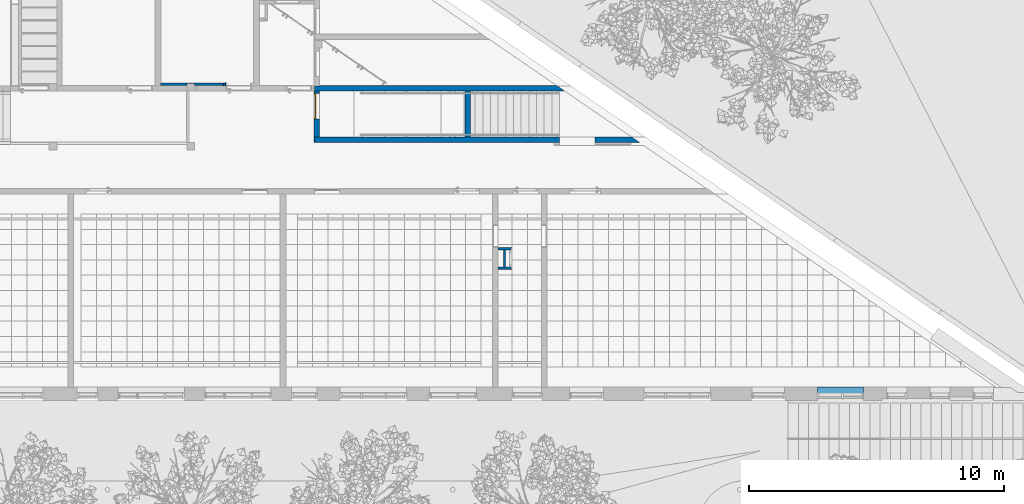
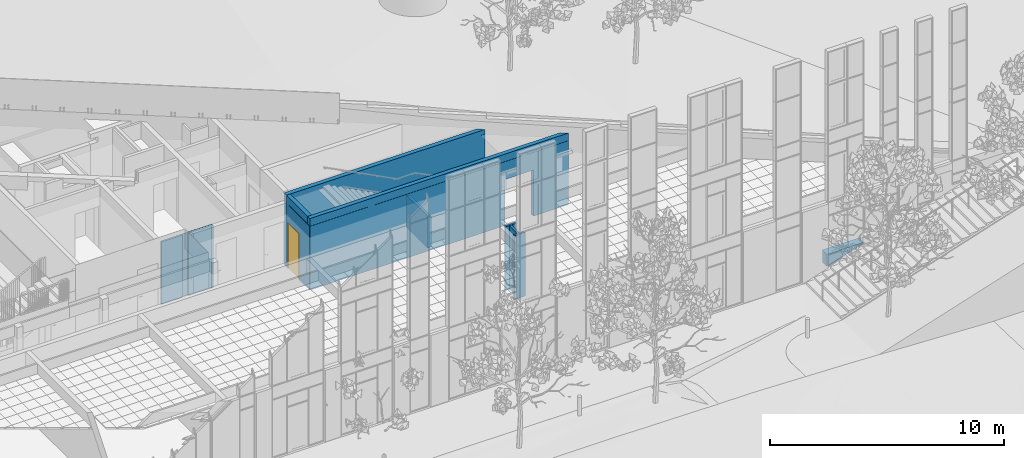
# One storey, part 133 of 246: 10 walls, 1 door, 2 openings.
"""IFC2X3 building model written with IfcOpenShell, lengths in millimetres."""

from ifc_helpers import new_model, entity, si_unit, converted_unit, derived_unit, money_unit, direction, frame, origin_with_axes, place, context, subcontext, project, spatial, faceted_brep, material, material_list, type_object, element, fill, save


model = new_model("IFC2X3")

# Units and contexts
model_context = context("Model", 3, precision=0.01, world=origin_with_axes(), true_north=direction((0.0, 1.0)))
body_context = subcontext(model_context, "Body", "Model", "MODEL_VIEW")
ifc_project = project(units=[si_unit("LENGTHUNIT", "METRE", prefix="MILLI"), si_unit("AREAUNIT", "SQUARE_METRE"), si_unit("VOLUMEUNIT", "CUBIC_METRE"), converted_unit("PLANEANGLEUNIT", "DEGREE", entity("IfcPlaneAngleMeasure", 0.0174532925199), si_unit("PLANEANGLEUNIT", "RADIAN"), dimensions=[0, 0, 0, 0, 0, 0, 0]), si_unit("SOLIDANGLEUNIT", "STERADIAN"), money_unit("EUR"), converted_unit("TIMEUNIT", "Year", entity("IfcTimeMeasure", 31556926.0), si_unit("TIMEUNIT", "SECOND"), dimensions=[0, 0, 1, 0, 0, 0, 0]), si_unit("MASSUNIT", "GRAM", prefix="KILO"), si_unit("THERMODYNAMICTEMPERATUREUNIT", "DEGREE_CELSIUS"), si_unit("LUMINOUSINTENSITYUNIT", "LUMEN"), si_unit("ENERGYUNIT", "JOULE", prefix="MEGA"), derived_unit("THERMALCONDUCTANCEUNIT", [(si_unit("POWERUNIT", "WATT"), 1), (si_unit("LENGTHUNIT", "METRE"), -1), (si_unit("THERMODYNAMICTEMPERATUREUNIT", "KELVIN"), -1)]), derived_unit("SPECIFICHEATCAPACITYUNIT", [(si_unit("ENERGYUNIT", "JOULE"), 1), (si_unit("MASSUNIT", "GRAM", prefix="KILO"), -1), (si_unit("THERMODYNAMICTEMPERATUREUNIT", "KELVIN"), -1)]), derived_unit("MASSDENSITYUNIT", [(si_unit("MASSUNIT", "GRAM", prefix="KILO"), 1), (si_unit("VOLUMEUNIT", "CUBIC_METRE"), -1)])], contexts=[model_context])

# Site, building, storey
site_placement = place(None, origin_with_axes())
site = spatial("IfcSite", under=ifc_project, at=site_placement, Name="L.Koidula tn 11b", CompositionType="ELEMENT")
building_placement = place(site_placement, origin_with_axes())
building = spatial("IfcBuilding", under=site, at=building_placement, Name="Rakvere Riigigümnaasium", CompositionType="ELEMENT")
storey_placement = place(building_placement, origin_with_axes())
storey = spatial("IfcBuildingStorey", under=building, at=storey_placement, Name="1.korrus 0,00", CompositionType="ELEMENT", Elevation=0.0)

# Wall, opening
ifc_material_1 = material(Name="siseviimistlus-seinad")
ifc_material_2 = material(Name="Betoon element / plaat")
ifc_material_list_1 = material_list([ifc_material_1, ifc_material_2])
wall_type_1 = type_object("IfcWallType", Name="SS-01-1 210", PredefinedType="NOTDEFINED")
wall_1_placement = place(storey_placement, frame((88720.8224893, 15100.4785302, 0.0), z_axis=(0.0, 0.0, 1.0), x_axis=(-1.0, 0.0, 0.0)))
wall_1 = element("IfcWall", 1, at=wall_1_placement, inside=storey, type_object=wall_type_1, material=ifc_material_list_1, Name="Sisesein", context=body_context, shape_type="Brep", body=[
    faceted_brep([(3130.82249772, 0.0, 2400.0), (3130.82249772, 0.0, 0.0), (12740.8426016, 0.0, 0.0), (12740.8426016, 0.0, 3325.0), (12730.8426016, 0.0, 3325.0), (0.0, 0.0, 3325.0), (0.0, 0.0, 0.0), (1730.82249772, 0.0, 0.0), (1730.82249772, 0.0, 2400.0), (3130.82249772, 10.0, 2400.0), (3130.82249772, 10.0, 0.0), (12740.8426016, 10.0, 0.0), (12740.8426016, 10.0, 3325.0), (-14.5798639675, 9.99999999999, 3325.0), (-14.5798639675, 9.99999999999, 0.0), (1730.82249772, 10.0, 0.0), (1730.82249772, 10.0, 2400.0)], [[[0, 1, 2, 3, 4, 5, 6, 7, 8]], [[1, 0, 9, 10]], [[1, 10, 11, 2]], [[3, 2, 11, 12]], [[5, 4, 3, 12, 13]], [[13, 14, 6, 5]], [[15, 7, 6, 14]], [[8, 7, 15, 16]], [[0, 8, 16, 9]], [[16, 15, 14, 13, 12, 11, 10, 9]]]),
    faceted_brep([(3130.82249772, -200.0, 2400.0), (3130.82249772, -200.0, 0.0), (12730.8426016, -200.0, 0.0), (12730.8426016, -200.0, 3720.0), (3130.82249772, -200.0, 3720.0), (3130.82249772, -200.0, 3470.0), (291.597279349, -200.0, 3470.0), (291.597279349, -200.0, 0.0), (1730.82249772, -200.0, 0.0), (1730.82249772, -200.0, 2400.0), (3130.82249772, 0.0, 2400.0), (3130.82249772, 0.0, 0.0), (12730.8426016, 0.0, 0.0), (12730.8426016, 0.0, 3720.0), (0.0, 0.0, 3720.0), (291.557296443, -199.972576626, 3720.0), (3130.82249772, -199.977778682, 3720.0), (3130.82249772, -199.977778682, 3470.0), (291.557296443, -199.972576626, 3470.0), (0.0, 0.0, 0.0), (1730.82249772, 0.0, 0.0), (1730.82249772, 0.0, 2400.0)], [[[0, 1, 2, 3, 4, 5, 6, 7, 8, 9]], [[1, 0, 10, 11]], [[1, 11, 12, 2]], [[12, 13, 3, 2]], [[13, 14, 15, 16, 4, 3]], [[4, 16, 17, 5]], [[6, 5, 17, 18]], [[14, 19, 7, 6, 18, 15]], [[20, 8, 7, 19]], [[9, 8, 20, 21]], [[0, 9, 21, 10]], [[21, 20, 19, 14, 13, 12, 11, 10]], [[15, 18, 17, 16]]]),
])
opening_1_placement = place(wall_1_placement, frame((2430.82249772, 0.0, 0.0), z_axis=(0.0, 0.0, 1.0), x_axis=(1.0, 0.0, 0.0)))
element("IfcOpeningElement", 2, at=opening_1_placement, cuts=wall_1, Name="SU-043 ava", context=body_context, shape_type="Brep", body=[
    faceted_brep([(700.0, 220.0, 0.0), (700.0, 220.0, 2400.0), (700.0, 10.0, 2400.0), (700.0, 10.0, 0.0), (-700.0, 220.0, 0.0), (-700.0, 220.0, 2400.0), (-700.0, 10.0, 2400.0), (-700.0, 10.0, 0.0)], [[[0, 1, 2, 3]], [[0, 4, 5, 1]], [[1, 5, 6, 2]], [[3, 2, 6, 7]], [[4, 0, 3, 7]], [[5, 4, 7, 6]]]),
    faceted_brep([(700.0, -200.0, 2400.0), (700.0, -200.0, 0.0), (700.0, 10.0, 0.0), (700.0, 10.0, 2400.0), (-700.0, -200.0, 2400.0), (-700.0, -200.0, 0.0), (-700.0, 10.0, 0.0), (-700.0, 10.0, 2400.0)], [[[0, 1, 2, 3]], [[0, 4, 5, 1]], [[1, 5, 6, 2]], [[3, 2, 6, 7]], [[4, 0, 3, 7]], [[5, 4, 7, 6]]]),
])

# Wall
ifc_material_list_2 = material_list([ifc_material_2, ifc_material_1])
wall_2_placement = place(storey_placement, frame((85790.303376, 17110.4555123, 0.0), z_axis=(0.0, 0.0, 1.0), x_axis=(-1.0, 0.0, 0.0)))
element("IfcWall", 3, at=wall_2_placement, inside=storey, type_object=wall_type_1, material=ifc_material_list_2, Name="Sisesein", context=body_context, shape_type="Brep", body=[
    faceted_brep([(13.7670985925, -9.44253716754, 3720.0), (13.7670985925, -9.44253716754, 3470.0), (0.0, 0.0, 3470.0), (0.0, 0.0, 0.0), (291.597445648, -200.0, 0.0), (291.597445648, -200.0, 3720.0), (200.303384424, -9.44250345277, 3720.0), (200.303384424, -9.44250345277, 3470.0), (200.303384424, 0.0, 3470.0), (200.303384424, 0.0, 3720.0), (9800.52472687, 0.0, 3720.0), (9800.52472687, 0.0, 0.0), (9800.52472687, -200.0, 0.0), (9800.52472687, -200.0, 3720.0)], [[[0, 1, 2, 3, 4, 5]], [[1, 0, 6, 7]], [[8, 2, 1, 7]], [[8, 9, 10, 11, 3, 2]], [[4, 3, 11, 12]], [[5, 4, 12, 13]], [[6, 0, 5, 13, 10, 9]], [[6, 9, 8, 7]], [[13, 12, 11, 10]]]),
    faceted_brep([(9800.52472687, -200.0, 0.0), (9800.52472687, -210.0, 0.0), (9800.32348827, -210.0, 0.0), (9800.32349651, -200.0, 0.0), (9800.52472687, -200.0, 3720.0), (9800.52472687, -210.0, 3720.0), (9800.32348827, -210.0, 3720.0), (9800.32349651, -200.0, 3720.0)], [[[0, 1, 2, 3]], [[0, 4, 5, 1]], [[1, 5, 6, 2]], [[3, 2, 6, 7]], [[4, 0, 3, 7]], [[5, 4, 7, 6]]]),
    faceted_brep([(9600.32348827, -210.0, 0.0), (306.177317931, -210.0, 0.0), (291.597445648, -200.0, 0.0), (9600.32349651, -200.0, 0.0), (9600.32348827, -210.0, 3720.0), (306.177317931, -210.0, 3720.0), (291.597445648, -200.0, 3720.0), (9600.32349651, -200.0, 3720.0)], [[[0, 1, 2, 3]], [[4, 5, 1, 0]], [[2, 1, 5, 6]], [[3, 2, 6, 7]], [[3, 7, 4, 0]], [[7, 6, 5, 4]]]),
])

# Wall, opening, door
wall_3_placement = place(storey_placement, frame((75989.9798877, 15100.4785302, 0.0), z_axis=(0.0, 0.0, 1.0), x_axis=(0.0, 1.0, 0.0)))
wall_3 = element("IfcWall", 4, at=wall_3_placement, inside=storey, type_object=wall_type_1, material=ifc_material_list_1, Name="Sisesein", context=body_context, shape_type="Brep", body=[
    faceted_brep([(909.955966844, 0.0, 0.0), (909.955966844, -0.00225401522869, 2400.0), (1909.95596696, -0.00225401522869, 2400.0), (1909.95596696, 0.0, 0.0), (2009.97698206, 0.0, 0.0), (2009.97695546, -0.00225401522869, 3325.0), (0.0, 0.0, 3325.0), (0.0, 0.0, 0.0), (909.955966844, 10.0000782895, 0.0), (909.955966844, 10.0001729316, 2400.0), (1909.95596696, 10.0001729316, 2400.0), (1909.95596696, 10.0001643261, 0.0), (2009.97698206, 10.0001729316, 0.0), (2009.97695546, 10.0001729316, 3325.0), (0.0, 10.0, 3325.0), (0.0, 10.0, 0.0)], [[[0, 1, 2, 3, 4, 5, 6, 7]], [[1, 0, 8, 9]], [[2, 1, 9, 10]], [[3, 2, 10, 11]], [[3, 11, 12, 4]], [[5, 4, 12, 13]], [[13, 14, 6, 5]], [[14, 15, 7, 6]], [[8, 0, 7, 15]], [[9, 8, 15, 14, 13, 12, 11, 10]]]),
    faceted_brep([(200.0, -200.0, 0.0), (909.955966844, -199.999997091, 0.0), (909.955966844, -200.0, 2400.0), (1909.95596696, -200.0, 2400.0), (1909.95596696, -199.999992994, 0.0), (2009.97698206, -199.999992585, 0.0), (2009.97698206, -199.999992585, 3720.0), (200.0, -200.0, 3720.0), (200.0, 0.0, 0.0), (909.955966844, 2.90867774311e-06, 0.0), (909.955966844, 0.0, 2400.0), (1909.95596696, 0.0, 2400.0), (1909.95596696, 7.00565294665e-06, 0.0), (2009.97698206, 7.41543715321e-06, 0.0), (2009.97698206, 7.41543715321e-06, 3720.0), (200.0, 0.0, 3720.0)], [[[0, 1, 2, 3, 4, 5, 6, 7]], [[8, 9, 1, 0]], [[10, 2, 1, 9]], [[11, 3, 2, 10]], [[12, 4, 3, 11]], [[5, 4, 12, 13]], [[13, 14, 6, 5]], [[7, 6, 14, 15]], [[0, 7, 15, 8]], [[11, 10, 9, 8, 15, 14, 13, 12]]]),
])
opening_2_placement = place(wall_3_placement, frame((1409.9559669, 0.0, 0.0), z_axis=(0.0, 0.0, 1.0), x_axis=(1.0, 0.0, 0.0)))
opening_2 = element("IfcOpeningElement", 5, at=opening_2_placement, cuts=wall_3, Name="SU-035", context=body_context, shape_type="Brep", body=[
    faceted_brep([(500.000000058, 420.0, 0.0), (500.000000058, 420.0, 2400.0), (500.000000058, -210.0, 2400.0), (500.000000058, -210.0, 0.0), (-500.000000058, 420.0, 0.0), (-500.000000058, 420.0, 2400.0), (-500.000000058, -210.0, 2400.0), (-500.000000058, -210.0, 0.0)], [[[0, 1, 2, 3]], [[0, 4, 5, 1]], [[1, 5, 6, 2]], [[3, 2, 6, 7]], [[4, 0, 3, 7]], [[5, 4, 7, 6]]]),
])
door_style = type_object("IfcDoorStyle", Name="Door 23", ConstructionType="NOTDEFINED", OperationType="SINGLE_SWING_LEFT", ParameterTakesPrecedence=False, Sizeable=False)
door_placement = place(opening_2_placement, frame((500.000000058, 0.0, 0.0), z_axis=(0.0, 0.0, 1.0), x_axis=(-1.0, 0.0, 0.0)))
door = element("IfcDoor", 6, at=door_placement, inside=storey, type_object=door_style, Name="SU-035", ObjectType="DOOR", OverallHeight=2400.0, OverallWidth=1000.0, context=body_context, shape_type="Brep", body=[
    faceted_brep([(950.000000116, 30.0, 0.0), (950.000000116, -9.99999999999, 0.0), (950.000000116, -9.99999999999, 2350.0), (950.000000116, 30.0, 2350.0), (962.000000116, 30.0, 0.0), (962.000000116, 70.0, 0.0), (1000.00000012, 70.0, 0.0), (1000.00000012, -9.99999999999, 0.0), (1000.00000012, -9.99999999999, 2350.0), (962.000000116, 30.0, 2350.0), (1000.00000012, 70.0, 2350.0), (962.000000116, 70.0, 2350.0)], [[[0, 1, 2, 3]], [[4, 5, 6, 7, 1, 0]], [[1, 7, 8, 2]], [[9, 3, 2, 8, 10, 11]], [[9, 4, 0, 3]], [[11, 5, 4, 9]], [[11, 10, 6, 5]], [[6, 10, 8, 7]]]),
    faceted_brep([(38.0, 30.0, 2350.0), (38.0, 70.0, 2350.0), (0.0, 70.0, 2350.0), (0.0, -9.99999999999, 2350.0), (50.0, -9.99999999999, 2350.0), (50.0, 30.0, 2350.0), (38.0, 30.0, 0.0), (38.0, 70.0, 0.0), (0.0, 70.0, 0.0), (0.0, -9.99999999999, 0.0), (50.0, -9.99999999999, 0.0), (50.0, 30.0, 0.0)], [[[0, 1, 2, 3, 4, 5]], [[0, 6, 7, 1]], [[7, 8, 2, 1]], [[2, 8, 9, 3]], [[3, 9, 10, 4]], [[5, 4, 10, 11]], [[5, 11, 6, 0]], [[6, 11, 10, 9, 8, 7]]]),
    faceted_brep([(962.000000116, 70.0, 2362.0), (38.0, 70.0, 2362.0), (38.0, 70.0, 2350.0), (0.0, 70.0, 2350.0), (0.0, 70.0, 2400.0), (1000.00000012, 70.0, 2400.0), (1000.00000012, 70.0, 2350.0), (962.000000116, 70.0, 2350.0), (962.000000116, 30.0, 2362.0), (38.0, 30.0, 2362.0), (38.0, 30.0, 2350.0), (50.0, 30.0, 2350.0), (50.0, -9.99999999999, 2350.0), (0.0, -9.99999999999, 2350.0), (0.0, -9.99999999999, 2400.0), (1000.00000012, -9.99999999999, 2400.0), (1000.00000012, -9.99999999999, 2350.0), (962.000000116, 30.0, 2350.0), (950.000000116, -9.99999999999, 2350.0), (950.000000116, 30.0, 2350.0)], [[[0, 1, 2, 3, 4, 5, 6, 7]], [[0, 8, 9, 1]], [[1, 9, 10, 2]], [[10, 11, 12, 13, 3, 2]], [[4, 3, 13, 14]], [[5, 4, 14, 15]], [[6, 5, 15, 16]], [[17, 7, 6, 16, 18, 19]], [[7, 17, 8, 0]], [[10, 9, 8, 17, 19, 11]], [[19, 18, 12, 11]], [[12, 18, 16, 15, 14, 13]]]),
    faceted_brep([(38.0, 70.0, 0.0), (962.000000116, 70.0, 0.0), (962.000000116, 30.0, 0.0), (38.0, 30.0, 0.0), (38.0, 70.0, 2362.0), (962.000000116, 70.0, 2362.0), (962.000000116, 30.0, 2362.0), (38.0, 30.0, 2362.0)], [[[0, 1, 2, 3]], [[0, 4, 5, 1]], [[1, 5, 6, 2]], [[3, 2, 6, 7]], [[4, 0, 3, 7]], [[5, 4, 7, 6]]]),
])
fill(opening_2, door)

# Walls
wall_4_placement = place(storey_placement, frame((81889.9999897, 15100.4785302, 0.0), z_axis=(0.0, 0.0, 1.0), x_axis=(0.0, 1.0, 0.0)))
element("IfcWall", 7, at=wall_4_placement, inside=storey, type_object=wall_type_1, material=ifc_material_list_1, Name="Sisesein", context=body_context, shape_type="Brep", body=[
    faceted_brep([(2009.97698206, 0.0, 1686.54941424), (2009.97698206, -10.0, 1681.38274758), (2009.97698206, -10.0, 0.0), (2009.97698206, 0.0, 0.0), (200.0, -10.0, 1681.38274758), (200.0, 0.0, 1686.54941424), (200.0, -10.0, 0.0), (200.0, 0.0, 0.0)], [[[0, 1, 2, 3]], [[4, 1, 0, 5]], [[1, 4, 6, 2]], [[3, 2, 6, 7]], [[5, 0, 3, 7]], [[4, 5, 7, 6]]]),
    faceted_brep([(2009.97698206, -10.0, 1681.38274758), (2009.97698206, -210.0, 1578.04941424), (2009.97698206, -210.0, 0.0), (2009.97698206, -10.0, 0.0), (200.0, -210.0, 1578.04941424), (200.0, -10.0, 1681.38274758), (200.0, -210.0, 0.0), (200.0, -10.0, 0.0)], [[[0, 1, 2, 3]], [[4, 1, 0, 5]], [[1, 4, 6, 2]], [[3, 2, 6, 7]], [[5, 0, 3, 7]], [[4, 5, 7, 6]]]),
])
ifc_material_3 = material(Name="FF-PIR soojustus-2")
ifc_material_4 = material(Name="Betoon-element")
ifc_material_5 = material(Name="Krohv")
ifc_material_list_3 = material_list([ifc_material_3, ifc_material_4, ifc_material_5])
wall_type_2 = type_object("IfcWallType", Name="VS-01-3 390", PredefinedType="NOTDEFINED")
wall_5_placement = place(storey_placement, frame((97499.9999543, 5500.45553887, 364.620739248), z_axis=(0.0, 0.0, 1.0), x_axis=(-1.0, 0.0, 0.0)))
element("IfcWall", 8, at=wall_5_placement, inside=storey, type_object=wall_type_2, material=ifc_material_list_3, Name="Välissein", context=body_context, shape_type="Brep", body=[
    faceted_brep([(0.0, 380.0, 576.530925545), (0.0, 200.0, 576.530925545), (0.0, 200.0, 645.0), (0.0, 380.0, 645.0), (1800.00004289, 200.0, 0.0), (1800.00004289, 380.0, 0.0), (1800.00004289, 200.0, 645.0), (1800.00004289, 380.0, 645.0)], [[[0, 1, 2, 3]], [[4, 1, 0, 5]], [[1, 4, 6, 2]], [[2, 6, 7, 3]], [[5, 0, 3, 7]], [[4, 5, 7, 6]]]),
    faceted_brep([(0.0, 200.0, 576.530925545), (0.0, 0.0, 576.530925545), (0.0, 0.0, 645.0), (0.0, 200.0, 645.0), (1800.00004289, 0.0, 0.0), (1800.00004289, 200.0, 0.0), (1800.00004289, 0.0, 645.0), (1800.00004289, 200.0, 645.0)], [[[0, 1, 2, 3]], [[4, 1, 0, 5]], [[1, 4, 6, 2]], [[2, 6, 7, 3]], [[5, 0, 3, 7]], [[4, 5, 7, 6]]]),
    faceted_brep([(0.0, 0.0, 576.530925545), (0.0, -10.0, 576.530925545), (0.0, -10.0, 645.0), (0.0, 0.0, 645.0), (1800.00004289, -10.0, 0.0), (1800.00004289, 0.0, 0.0), (1800.00004289, -10.0, 645.0), (1800.00004289, 0.0, 645.0)], [[[0, 1, 2, 3]], [[4, 1, 0, 5]], [[1, 4, 6, 2]], [[2, 6, 7, 3]], [[5, 0, 3, 7]], [[4, 5, 7, 6]]]),
])
ifc_material_6 = material(Name="Polükarbamiid")
ifc_material_7 = material(Name="Kipsplaat-erikõva")
ifc_material_8 = material(Name="Karkass")
ifc_material_list_4 = material_list([ifc_material_6, ifc_material_7, ifc_material_7, ifc_material_8])
wall_type_3 = type_object("IfcWallType", Name="SS-09-1 97", PredefinedType="NOTDEFINED")
wall_6_placement = place(storey_placement, frame((82979.9975109, 10980.4533345, 0.0), z_axis=(0.0, 0.0, 1.0), x_axis=(1.0, 0.0, 0.0)))
element("IfcWall", 9, at=wall_6_placement, inside=storey, type_object=wall_type_3, material=ifc_material_list_4, Name="Sisesein", context=body_context, shape_type="Brep", body=[
    faceted_brep([(749.5, 0.0, 3325.0), (210.0, 0.0, 3325.0), (210.0, -5.0, 3325.0), (749.5, -5.0, 3325.0), (749.5, 0.0, 0.0), (210.0, 0.0, 0.0), (210.0, -5.0, 0.0), (749.5, -5.0, 0.0)], [[[0, 1, 2, 3]], [[4, 5, 1, 0]], [[2, 1, 5, 6]], [[3, 2, 6, 7]], [[3, 7, 4, 0]], [[7, 6, 5, 4]]]),
    faceted_brep([(744.5, -5.0, 3325.0), (210.0, -5.0, 3325.0), (210.0, -18.0, 3325.0), (744.5, -18.0, 3325.0), (744.5, -5.0, 0.0), (210.0, -5.0, 0.0), (210.0, -18.0, 0.0), (744.5, -18.0, 0.0)], [[[0, 1, 2, 3]], [[4, 5, 1, 0]], [[2, 1, 5, 6]], [[3, 2, 6, 7]], [[3, 7, 4, 0]], [[7, 6, 5, 4]]]),
    faceted_brep([(731.5, -18.0, 3325.0), (210.0, -18.0, 3325.0), (210.0, -30.5, 3325.0), (731.5, -30.5, 3325.0), (731.5, -18.0, 0.0), (210.0, -18.0, 0.0), (210.0, -30.5, 0.0), (731.5, -30.5, 0.0)], [[[0, 1, 2, 3]], [[4, 5, 1, 0]], [[2, 1, 5, 6]], [[3, 2, 6, 7]], [[3, 7, 4, 0]], [[7, 6, 5, 4]]]),
    faceted_brep([(719.0, -30.5, 3325.0), (200.0, -30.5, 3325.0), (200.0, -96.5, 3325.0), (719.0, -96.5, 3325.0), (719.0, -30.5, 0.0), (200.0, -30.5, 0.0), (200.0, -96.5, 0.0), (719.0, -96.5, 0.0)], [[[0, 1, 2, 3]], [[4, 5, 1, 0]], [[2, 1, 5, 6]], [[3, 2, 6, 7]], [[3, 7, 4, 0]], [[7, 6, 5, 4]]]),
])
ifc_material_list_5 = material_list([ifc_material_8, ifc_material_7, ifc_material_7, ifc_material_6])
wall_7_placement = place(storey_placement, frame((82979.9975109, 10120.4562095, 0.0), z_axis=(0.0, 0.0, 1.0), x_axis=(1.0, 0.0, 0.0)))
element("IfcWall", 10, at=wall_7_placement, inside=storey, type_object=wall_type_3, material=ifc_material_list_5, Name="Sisesein", context=body_context, shape_type="Brep", body=[
    faceted_brep([(719.0, 30.5, 0.0), (200.0, 30.5, 0.0), (200.0, 96.5, 0.0), (719.0, 96.5, 0.0), (719.0, 30.5, 3325.0), (200.0, 30.5, 3325.0), (200.0, 96.5, 3325.0), (719.0, 96.5, 3325.0)], [[[0, 1, 2, 3]], [[4, 5, 1, 0]], [[2, 1, 5, 6]], [[3, 2, 6, 7]], [[3, 7, 4, 0]], [[7, 6, 5, 4]]]),
    faceted_brep([(731.5, 18.0, 0.0), (210.0, 18.0, 0.0), (210.0, 30.5, 0.0), (731.5, 30.5, 0.0), (731.5, 18.0, 3325.0), (210.0, 18.0, 3325.0), (210.0, 30.5, 3325.0), (731.5, 30.5, 3325.0)], [[[0, 1, 2, 3]], [[4, 5, 1, 0]], [[2, 1, 5, 6]], [[3, 2, 6, 7]], [[3, 7, 4, 0]], [[7, 6, 5, 4]]]),
    faceted_brep([(744.5, 5.0, 0.0), (210.0, 5.0, 0.0), (210.0, 18.0, 0.0), (744.5, 18.0, 0.0), (744.5, 5.0, 3325.0), (210.0, 5.0, 3325.0), (210.0, 18.0, 3325.0), (744.5, 18.0, 3325.0)], [[[0, 1, 2, 3]], [[4, 5, 1, 0]], [[2, 1, 5, 6]], [[3, 2, 6, 7]], [[3, 7, 4, 0]], [[7, 6, 5, 4]]]),
    faceted_brep([(749.5, 0.0, 0.0), (210.0, 0.0, 0.0), (210.0, 5.0, 0.0), (749.5, 5.0, 0.0), (749.5, 0.0, 3325.0), (210.0, 0.0, 3325.0), (210.0, 5.0, 3325.0), (749.5, 5.0, 3325.0)], [[[0, 1, 2, 3]], [[4, 5, 1, 0]], [[2, 1, 5, 6]], [[3, 2, 6, 7]], [[3, 7, 4, 0]], [[7, 6, 5, 4]]]),
])
wall_8_placement = place(storey_placement, frame((72519.9981691, 17110.4555225, 0.0), z_axis=(0.0, 0.0, 1.0), x_axis=(0.0, 1.0, 0.0)))
element("IfcWall", 11, at=wall_8_placement, inside=storey, type_object=wall_type_3, material=ifc_material_list_5, Name="Sisesein", context=body_context, shape_type="Brep", body=[
    faceted_brep([(287.499999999, 30.5, 0.0), (200.0, 30.5, 0.0), (200.0, 96.5, 0.0), (287.499999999, 96.5, 0.0), (287.499999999, 30.5, 3255.0), (200.0, 30.5, 3255.0), (200.0, 96.5, 3255.0), (287.499999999, 96.5, 3255.0)], [[[0, 1, 2, 3]], [[4, 5, 1, 0]], [[2, 1, 5, 6]], [[3, 2, 6, 7]], [[3, 7, 4, 0]], [[7, 6, 5, 4]]]),
    faceted_brep([(299.999999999, 18.0, 0.0), (210.0, 18.0, 0.0), (210.0, 30.5, 0.0), (299.999999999, 30.5, 0.0), (299.999999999, 18.0, 3255.0), (210.0, 18.0, 3255.0), (210.0, 30.5, 3255.0), (299.999999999, 30.5, 3255.0)], [[[0, 1, 2, 3]], [[4, 5, 1, 0]], [[2, 1, 5, 6]], [[3, 2, 6, 7]], [[3, 7, 4, 0]], [[7, 6, 5, 4]]]),
    faceted_brep([(312.999999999, 5.0, 0.0), (210.0, 5.0, 0.0), (210.0, 18.0, 0.0), (312.999999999, 18.0, 0.0), (312.999999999, 5.0, 3255.0), (210.0, 5.0, 3255.0), (210.0, 18.0, 3255.0), (312.999999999, 18.0, 3255.0)], [[[0, 1, 2, 3]], [[4, 5, 1, 0]], [[2, 1, 5, 6]], [[3, 2, 6, 7]], [[3, 7, 4, 0]], [[7, 6, 5, 4]]]),
    faceted_brep([(317.999999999, 0.0, 0.0), (210.0, 0.0, 0.0), (210.0, 5.0, 0.0), (317.999999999, 5.0, 0.0), (317.999999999, 0.0, 3255.0), (210.0, 0.0, 3255.0), (210.0, 5.0, 3255.0), (317.999999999, 5.0, 3255.0)], [[[0, 1, 2, 3]], [[4, 5, 1, 0]], [[2, 1, 5, 6]], [[3, 2, 6, 7]], [[3, 7, 4, 0]], [[7, 6, 5, 4]]]),
])
wall_9_placement = place(storey_placement, frame((72519.9981691, 17428.4555225, 0.0), z_axis=(0.0, 0.0, 1.0), x_axis=(-1.0, 0.0, 0.0)))
element("IfcWall", 12, at=wall_9_placement, inside=storey, type_object=wall_type_3, material=ifc_material_list_5, Name="Sisesein", context=body_context, shape_type="Brep", body=[
    faceted_brep([(1520.0000962, 96.5, 3255.0), (1520.0000962, 30.5, 3255.0), (2555.01083929, 30.4999999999, 3255.0), (2555.01083929, 96.4999999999, 3255.0), (1520.0000962, 30.5, 0.0), (1520.0000962, 96.5, 0.0), (2555.01083929, 30.4999999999, 0.0), (2555.01083929, 96.4999999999, 0.0)], [[[0, 1, 2, 3]], [[4, 1, 0, 5]], [[1, 4, 6, 2]], [[6, 7, 3, 2]], [[5, 0, 3, 7]], [[4, 5, 7, 6]]]),
    faceted_brep([(1220.0000962, 30.5, 0.0), (1220.0000962, 30.5, 3255.0), (96.5, 30.5, 3255.0), (96.5, 30.5, 0.0), (1220.0000962, 96.5, 3255.0), (1220.0000962, 96.5, 0.0), (96.5, 96.5, 3255.0), (96.5, 96.5, 0.0)], [[[0, 1, 2, 3]], [[4, 1, 0, 5]], [[1, 4, 6, 2]], [[6, 7, 3, 2]], [[5, 0, 3, 7]], [[4, 5, 7, 6]]]),
    faceted_brep([(1520.0000962, 30.5, 3255.0), (1520.0000962, 18.0, 3255.0), (2545.01083929, 17.9999999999, 3255.0), (2545.01083929, 30.4999999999, 3255.0), (1520.0000962, 18.0, 0.0), (1520.0000962, 30.5, 0.0), (2545.01083929, 17.9999999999, 0.0), (2545.01083929, 30.4999999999, 0.0)], [[[0, 1, 2, 3]], [[4, 1, 0, 5]], [[1, 4, 6, 2]], [[6, 7, 3, 2]], [[5, 0, 3, 7]], [[4, 5, 7, 6]]]),
    faceted_brep([(1220.0000962, 18.0, 0.0), (1220.0000962, 18.0, 3255.0), (30.5, 18.0, 3255.0), (30.5, 18.0, 0.0), (1220.0000962, 30.5, 3255.0), (1220.0000962, 30.5, 0.0), (30.5, 30.5, 3255.0), (30.5, 30.5, 0.0)], [[[0, 1, 2, 3]], [[4, 1, 0, 5]], [[1, 4, 6, 2]], [[6, 7, 3, 2]], [[5, 0, 3, 7]], [[4, 5, 7, 6]]]),
    faceted_brep([(2545.01083929, 17.9999999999, 0.0), (2545.01083929, 4.99999999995, 0.0), (18.0, 5.0, 0.0), (18.0, 18.0, 0.0), (2545.01083929, 17.9999999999, 3255.0), (2545.01083929, 4.99999999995, 3255.0), (18.0, 5.0, 3255.0), (18.0, 18.0, 3255.0)], [[[0, 1, 2, 3]], [[1, 0, 4, 5]], [[1, 5, 6, 2]], [[7, 3, 2, 6]], [[4, 0, 3, 7]], [[5, 4, 7, 6]]]),
    faceted_brep([(2540.01083929, 0.0, 0.0), (5.0, 0.0, 0.0), (5.0, 5.0, 0.0), (2540.01083929, 4.99999999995, 0.0), (2540.01083929, 0.0, 3255.0), (5.0, 0.0, 3255.0), (5.0, 5.0, 3255.0), (2540.01083929, 4.99999999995, 3255.0)], [[[0, 1, 2, 3]], [[4, 5, 1, 0]], [[2, 1, 5, 6]], [[3, 2, 6, 7]], [[3, 7, 4, 0]], [[7, 6, 5, 4]]]),
])
wall_10_placement = place(storey_placement, frame((83389.9975109, 10980.4533345, 0.0), z_axis=(0.0, 0.0, 1.0), x_axis=(0.0, -1.0, 0.0)))
element("IfcWall", 13, at=wall_10_placement, inside=storey, type_object=wall_type_3, material=ifc_material_list_4, Name="Sisesein", context=body_context, shape_type="Brep", body=[
    faceted_brep([(763.497124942, 96.5, 3325.0), (96.5, 96.5, 3325.0), (96.5, 91.5, 3325.0), (763.497124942, 91.5, 3325.0), (763.497124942, 96.5, 0.0), (96.5, 96.5, 0.0), (96.5, 91.5, 0.0), (763.497124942, 91.5, 0.0)], [[[0, 1, 2, 3]], [[4, 5, 1, 0]], [[2, 1, 5, 6]], [[3, 2, 6, 7]], [[3, 7, 4, 0]], [[7, 6, 5, 4]]]),
    faceted_brep([(763.497124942, 91.5, 3325.0), (96.5, 91.5, 3325.0), (96.5, 78.5, 3325.0), (763.497124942, 78.5, 3325.0), (763.497124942, 91.5, 0.0), (96.5, 91.5, 0.0), (96.5, 78.5, 0.0), (763.497124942, 78.5, 0.0)], [[[0, 1, 2, 3]], [[4, 5, 1, 0]], [[2, 1, 5, 6]], [[3, 2, 6, 7]], [[3, 7, 4, 0]], [[7, 6, 5, 4]]]),
    faceted_brep([(763.497124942, 78.5, 3325.0), (96.5, 78.5, 3325.0), (96.5, 66.0, 3325.0), (763.497124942, 66.0, 3325.0), (763.497124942, 78.5, 0.0), (96.5, 78.5, 0.0), (96.5, 66.0, 0.0), (763.497124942, 66.0, 0.0)], [[[0, 1, 2, 3]], [[4, 5, 1, 0]], [[2, 1, 5, 6]], [[3, 2, 6, 7]], [[3, 7, 4, 0]], [[7, 6, 5, 4]]]),
    faceted_brep([(763.497124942, 66.0, 3325.0), (96.5, 66.0, 3325.0), (96.5, 0.0, 3325.0), (763.497124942, 0.0, 3325.0), (763.497124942, 66.0, 0.0), (96.5, 66.0, 0.0), (96.5, 0.0, 0.0), (763.497124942, 0.0, 0.0)], [[[0, 1, 2, 3]], [[4, 5, 1, 0]], [[2, 1, 5, 6]], [[3, 2, 6, 7]], [[3, 7, 4, 0]], [[7, 6, 5, 4]]]),
])

save(model, "model.ifc")
